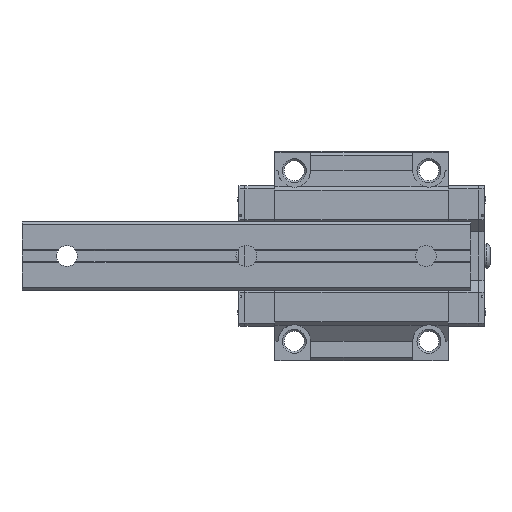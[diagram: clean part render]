
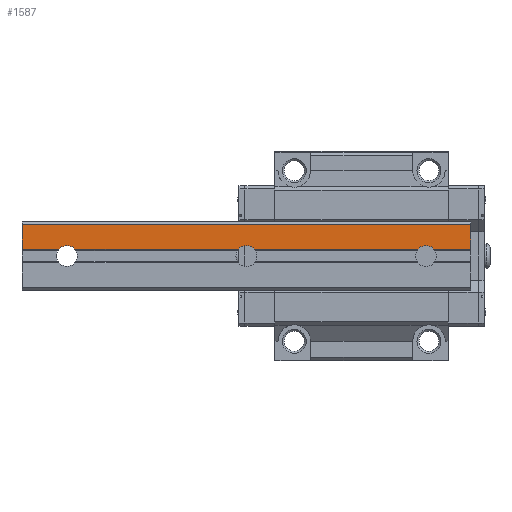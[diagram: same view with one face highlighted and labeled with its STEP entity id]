
A CAD part, front view. The second image highlights one B-rep face of the part: STEP entity #1587.
In plain terms, the highlighted planar face has unit normal (0, -1, 0).
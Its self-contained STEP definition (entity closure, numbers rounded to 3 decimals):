
#1587 = ADVANCED_FACE( '', ( #3181 ), #3182, .F. );
#3181 = FACE_OUTER_BOUND( '', #4818, .T. );
#3182 = PLANE( '', #4819 );
#4818 = EDGE_LOOP( '', ( #9052, #9053, #9054, #9055, #9056, #9057, #9058, #9059, #9060, #9061 ) );
#4819 = AXIS2_PLACEMENT_3D( '', #9062, #9063, #9064 );
#9052 = ORIENTED_EDGE( '', *, *, #11029, .F. );
#9053 = ORIENTED_EDGE( '', *, *, #10885, .F. );
#9054 = ORIENTED_EDGE( '', *, *, #10649, .T. );
#9055 = ORIENTED_EDGE( '', *, *, #10525, .T. );
#9056 = ORIENTED_EDGE( '', *, *, #9890, .F. );
#9057 = ORIENTED_EDGE( '', *, *, #11290, .F. );
#9058 = ORIENTED_EDGE( '', *, *, #10019, .F. );
#9059 = ORIENTED_EDGE( '', *, *, #9884, .F. );
#9060 = ORIENTED_EDGE( '', *, *, #10590, .F. );
#9061 = ORIENTED_EDGE( '', *, *, #10935, .F. );
#9062 = CARTESIAN_POINT( '', ( 75., 0., 10.5 ) );
#9063 = DIRECTION( '', ( 0., 1., 0. ) );
#9064 = DIRECTION( '', ( 0., 0., 1. ) );
#9884 = EDGE_CURVE( '', #11909, #11911, #11912, .T. );
#9890 = EDGE_CURVE( '', #11921, #11922, #11923, .T. );
#10019 = EDGE_CURVE( '', #11911, #12141, #12142, .T. );
#10525 = EDGE_CURVE( '', #12963, #11922, #12964, .T. );
#10590 = EDGE_CURVE( '', #13059, #11909, #13060, .T. );
#10649 = EDGE_CURVE( '', #13138, #12963, #13139, .T. );
#10885 = EDGE_CURVE( '', #13138, #13458, #13459, .T. );
#10935 = EDGE_CURVE( '', #13521, #13059, #13523, .T. );
#11029 = EDGE_CURVE( '', #13458, #13521, #13643, .T. );
#11290 = EDGE_CURVE( '', #12141, #11921, #13951, .T. );
#11909 = VERTEX_POINT( '', #14847 );
#11911 = VERTEX_POINT( '', #14849 );
#11912 = CIRCLE( '', #14850, 3.5 );
#11921 = VERTEX_POINT( '', #14859 );
#11922 = VERTEX_POINT( '', #14860 );
#11923 = LINE( '', #14861, #14862 );
#12141 = VERTEX_POINT( '', #15193 );
#12142 = LINE( '', #15194, #15195 );
#12963 = VERTEX_POINT( '', #16367 );
#12964 = LINE( '', #16368, #16369 );
#13059 = VERTEX_POINT( '', #16503 );
#13060 = LINE( '', #16504, #16505 );
#13138 = VERTEX_POINT( '', #16628 );
#13139 = LINE( '', #16629, #16630 );
#13458 = VERTEX_POINT( '', #17095 );
#13459 = LINE( '', #17096, #17097 );
#13521 = VERTEX_POINT( '', #17190 );
#13523 = CIRCLE( '', #17192, 3.5 );
#13643 = LINE( '', #17371, #17372 );
#13951 = CIRCLE( '', #17807, 3.5 );
#14847 = CARTESIAN_POINT( '', ( 2.681, 0., 2.25 ) );
#14849 = CARTESIAN_POINT( '', ( -2.681, 0., 2.25 ) );
#14850 = AXIS2_PLACEMENT_3D( '', #18215, #18216, #18217 );
#14859 = CARTESIAN_POINT( '', ( -62.681, 0., 2.25 ) );
#14860 = CARTESIAN_POINT( '', ( -75., 0., 2.25 ) );
#14861 = CARTESIAN_POINT( '', ( 75., 0., 2.25 ) );
#14862 = VECTOR( '', #18230, 1000. );
#15193 = CARTESIAN_POINT( '', ( -57.319, 0., 2.25 ) );
#15194 = CARTESIAN_POINT( '', ( 75., 0., 2.25 ) );
#15195 = VECTOR( '', #18362, 1000. );
#16367 = CARTESIAN_POINT( '', ( -75., 0., 10.5 ) );
#16368 = CARTESIAN_POINT( '', ( -75., 0., 10.5 ) );
#16369 = VECTOR( '', #18893, 1000. );
#16503 = CARTESIAN_POINT( '', ( 57.319, 0., 2.25 ) );
#16504 = CARTESIAN_POINT( '', ( 75., 0., 2.25 ) );
#16505 = VECTOR( '', #18960, 1000. );
#16628 = CARTESIAN_POINT( '', ( 75., 0., 10.5 ) );
#16629 = CARTESIAN_POINT( '', ( 75., 0., 10.5 ) );
#16630 = VECTOR( '', #19012, 1000. );
#17095 = CARTESIAN_POINT( '', ( 75., 0., 2.25 ) );
#17096 = CARTESIAN_POINT( '', ( 75., 0., 10.5 ) );
#17097 = VECTOR( '', #19227, 1000. );
#17190 = CARTESIAN_POINT( '', ( 62.681, 0., 2.25 ) );
#17192 = AXIS2_PLACEMENT_3D( '', #19274, #19275, #19276 );
#17371 = CARTESIAN_POINT( '', ( 75., 0., 2.25 ) );
#17372 = VECTOR( '', #19353, 1000. );
#17807 = AXIS2_PLACEMENT_3D( '', #19562, #19563, #19564 );
#18215 = CARTESIAN_POINT( '', ( 0., 0., 0. ) );
#18216 = DIRECTION( '', ( 0., -1., 0. ) );
#18217 = DIRECTION( '', ( 0., 0., -1. ) );
#18230 = DIRECTION( '', ( -1., 0., 0. ) );
#18362 = DIRECTION( '', ( -1., 0., 0. ) );
#18893 = DIRECTION( '', ( 0., 0., -1. ) );
#18960 = DIRECTION( '', ( -1., 0., 0. ) );
#19012 = DIRECTION( '', ( -1., 0., 0. ) );
#19227 = DIRECTION( '', ( 0., 0., -1. ) );
#19274 = CARTESIAN_POINT( '', ( 60., 0., 0. ) );
#19275 = DIRECTION( '', ( 0., -1., 0. ) );
#19276 = DIRECTION( '', ( 0., 0., -1. ) );
#19353 = DIRECTION( '', ( -1., 0., 0. ) );
#19562 = CARTESIAN_POINT( '', ( -60., 0., 0. ) );
#19563 = DIRECTION( '', ( 0., -1., 0. ) );
#19564 = DIRECTION( '', ( 0., 0., -1. ) );
